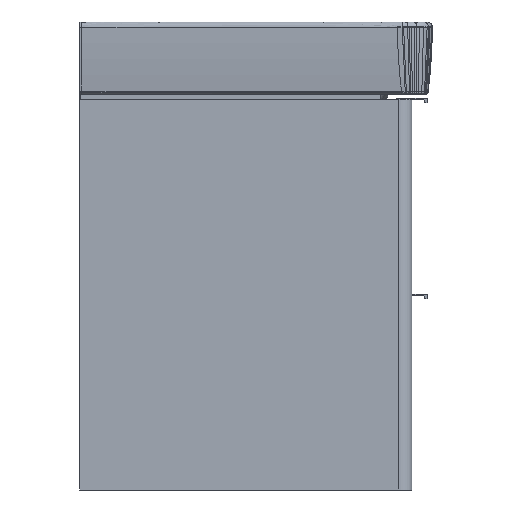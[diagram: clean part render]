
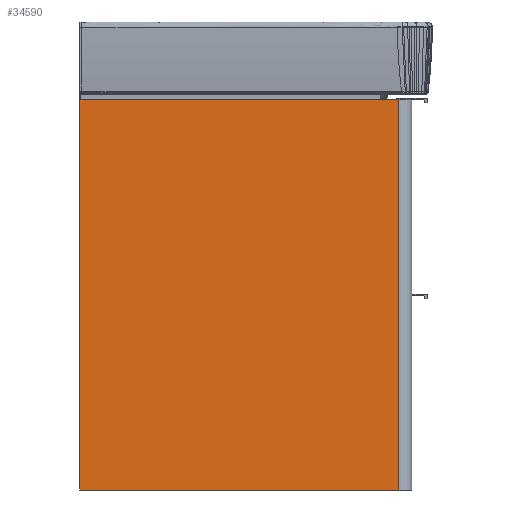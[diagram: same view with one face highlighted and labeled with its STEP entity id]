
A CAD part, left-side view. The second image highlights one B-rep face of the part: STEP entity #34590.
In plain terms, the highlighted planar face has unit normal (-1, 0, 0).
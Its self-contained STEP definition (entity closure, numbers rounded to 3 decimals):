
#8663=FACE_OUTER_BOUND('',#10077,.T.);
#10077=EDGE_LOOP('',(#26678,#26679,#26680,#26681));
#11661=LINE('',#44923,#13312);
#11663=LINE('',#44929,#13314);
#11667=LINE('',#44937,#13318);
#11668=LINE('',#44938,#13319);
#13312=VECTOR('',#38763,10.);
#13314=VECTOR('',#38769,10.);
#13318=VECTOR('',#38775,10.);
#13319=VECTOR('',#38776,10.);
#14953=VERTEX_POINT('',#44920);
#14954=VERTEX_POINT('',#44922);
#14956=VERTEX_POINT('',#44928);
#14959=VERTEX_POINT('',#44936);
#20583=EDGE_CURVE('',#14953,#14954,#11661,.T.);
#20586=EDGE_CURVE('',#14954,#14956,#11663,.T.);
#20590=EDGE_CURVE('',#14959,#14953,#11667,.T.);
#20591=EDGE_CURVE('',#14956,#14959,#11668,.T.);
#26678=ORIENTED_EDGE('',*,*,#20583,.F.);
#26679=ORIENTED_EDGE('',*,*,#20590,.F.);
#26680=ORIENTED_EDGE('',*,*,#20591,.F.);
#26681=ORIENTED_EDGE('',*,*,#20586,.F.);
#34051=PLANE('',#36446);
#34590=ADVANCED_FACE('',(#8663),#34051,.T.);
#36446=AXIS2_PLACEMENT_3D('',#44935,#38773,#38774);
#38763=DIRECTION('',(0.,0.,-1.));
#38769=DIRECTION('',(0.,1.,0.));
#38773=DIRECTION('center_axis',(-1.,0.,0.));
#38774=DIRECTION('ref_axis',(0.,-1.,0.));
#38775=DIRECTION('',(0.,-1.,0.));
#38776=DIRECTION('',(0.,0.,1.));
#44920=CARTESIAN_POINT('',(-332.5,-202.,515.));
#44922=CARTESIAN_POINT('',(-332.5,-202.,0.));
#44923=CARTESIAN_POINT('',(-332.5,-202.,0.));
#44928=CARTESIAN_POINT('',(-332.5,219.,0.));
#44929=CARTESIAN_POINT('',(-332.5,-219.,0.));
#44935=CARTESIAN_POINT('Origin',(-332.5,219.,0.));
#44936=CARTESIAN_POINT('',(-332.5,219.,515.));
#44937=CARTESIAN_POINT('',(-332.5,-219.,515.));
#44938=CARTESIAN_POINT('',(-332.5,219.,0.));
